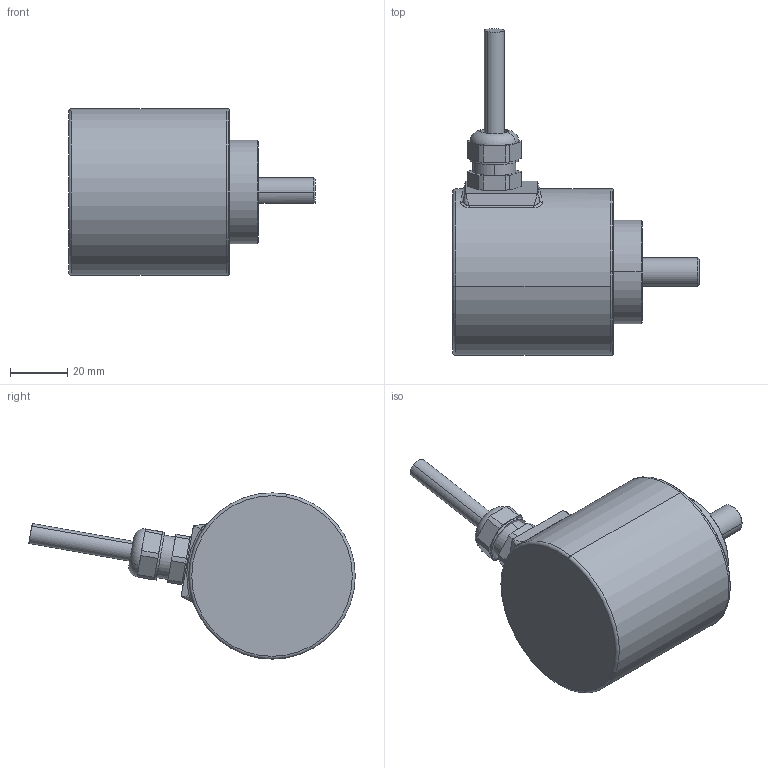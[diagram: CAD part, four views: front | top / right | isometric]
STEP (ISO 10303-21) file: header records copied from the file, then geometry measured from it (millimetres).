
FILE_DESCRIPTION (( 'STEP AP214' ), '1' );
FILE_NAME ('8.5804.12X2.XXXX.STEP', '2015-05-08T07:30:39', ( 'HeirlerN' ), ( 'Microsoft' ), 'SwSTEP 2.0', 'SolidWorks 2013', '' );
FILE_SCHEMA (( 'AUTOMOTIVE_DESIGN' ));
Length unit declared in the file: millimetre
Products named in the file (1): 8.5804.12X2.XXXX
Bounding box: 85.95 x 113.81 x 58 mm (x, y, z)
Surface area: 24075.8 mm2 (no closed solid volume)
Topology: 0 solids, 9 shells, 119 faces, 292 edges, 188 vertices
Faces by surface type: cylinder 40, plane 39, bspline 19, cone 15, torus 6
Entity records: 5747 total; most frequent: CARTESIAN_POINT 1657, DIRECTION 606, ORIENTED_EDGE 532, EDGE_CURVE 292, AXIS2_PLACEMENT_3D 249, VERTEX_POINT 188, CIRCLE 148, EDGE_LOOP 135
